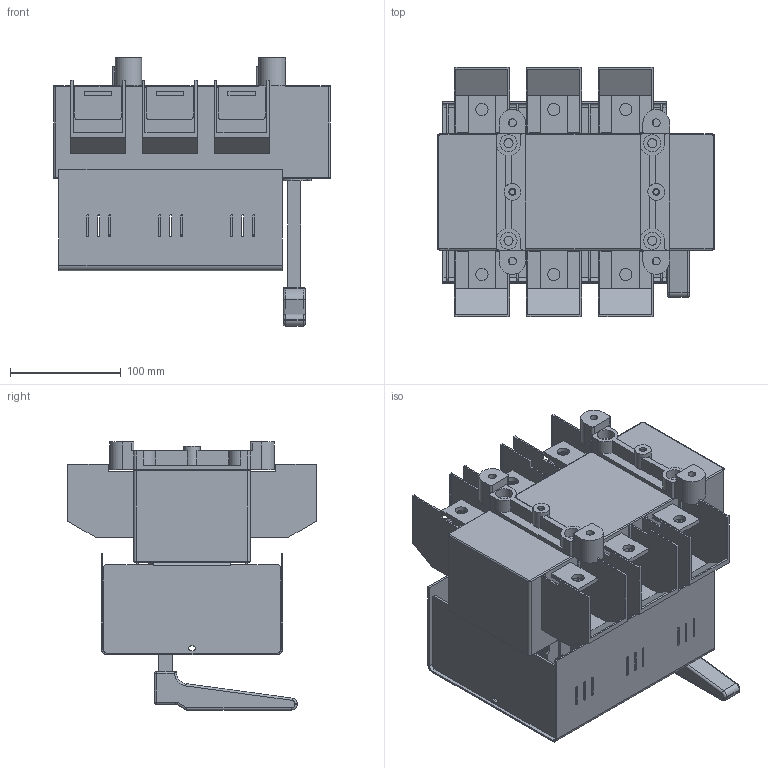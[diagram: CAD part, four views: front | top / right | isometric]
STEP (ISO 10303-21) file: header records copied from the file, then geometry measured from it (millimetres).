
FILE_DESCRIPTION(/* description */ (''),/* implementation_level */ '2;1');
FILE_NAME(/* name */ 'RAB 1 P3-R z oslona zaciskow.stp',/* time_stamp */ '2021-08-19T12:00:08+02:00',/* author */ (''),/* organization */ (''),/* preprocessor_version */ 'ST-DEVELOPER v18.1',/* originating_system */ 'SIEMENS PLM Software NX 1965',/* authorisation */ '');
FILE_SCHEMA (('AUTOMOTIVE_DESIGN { 1 0 10303 214 3 1 1 1 }'));
Length unit declared in the file: millimetre
Products named in the file (1): RAB 1 P3-R z oslona zaciskow
Bounding box: 250 x 225 x 242.3 mm (x, y, z)
Volume: 2651705.1 mm3; surface area: 562992.7 mm2
Topology: 1 solids, 1 shells, 1162 faces, 3213 edges, 2095 vertices
Faces by surface type: plane 781, cylinder 359, bspline 8, torus 8, sphere 6
Full cylindrical faces by diameter (mm): 4.8 x2, 6.2 x2, 7 x4, 8.2 x4, 11 x6, 14 x4, 15 x2, 15.5 x4
Entity records: 37023 total; most frequent: CARTESIAN_POINT 6603, ORIENTED_EDGE 6342, DIRECTION 6223, EDGE_CURVE 3171, LINE 2413, VECTOR 2413, VERTEX_POINT 2084, AXIS2_PLACEMENT_3D 1905
